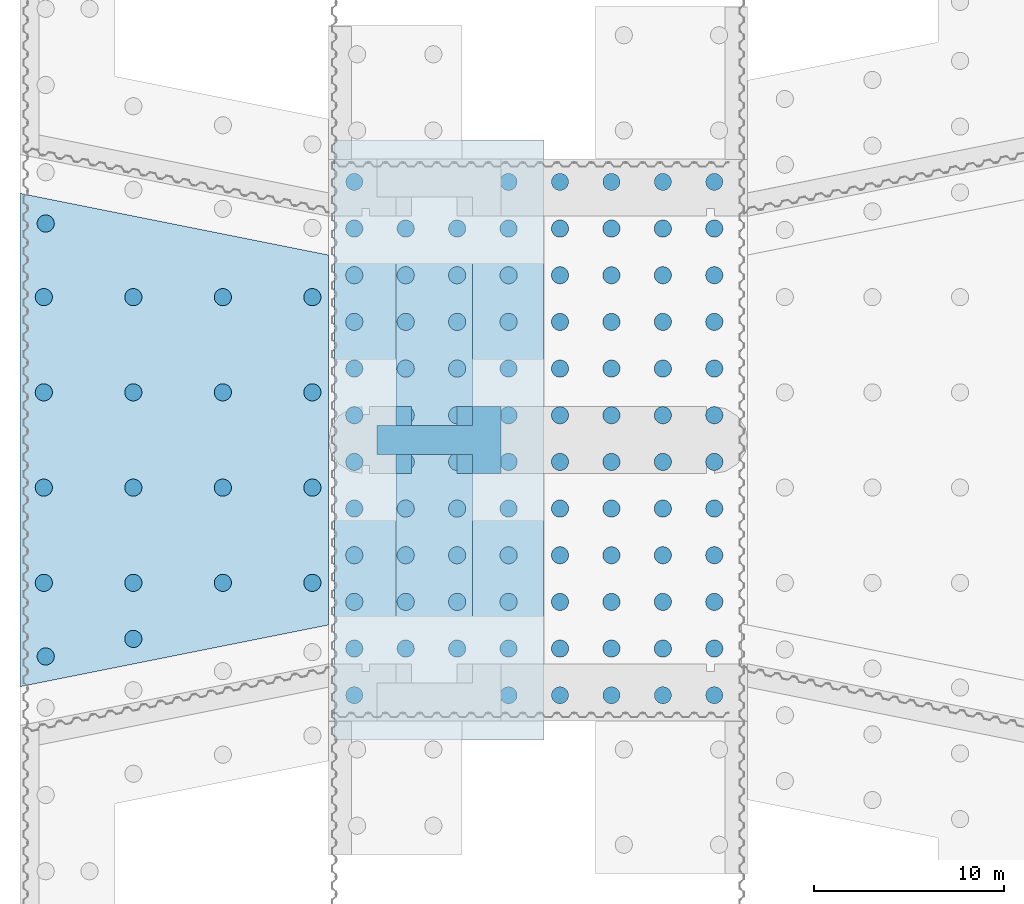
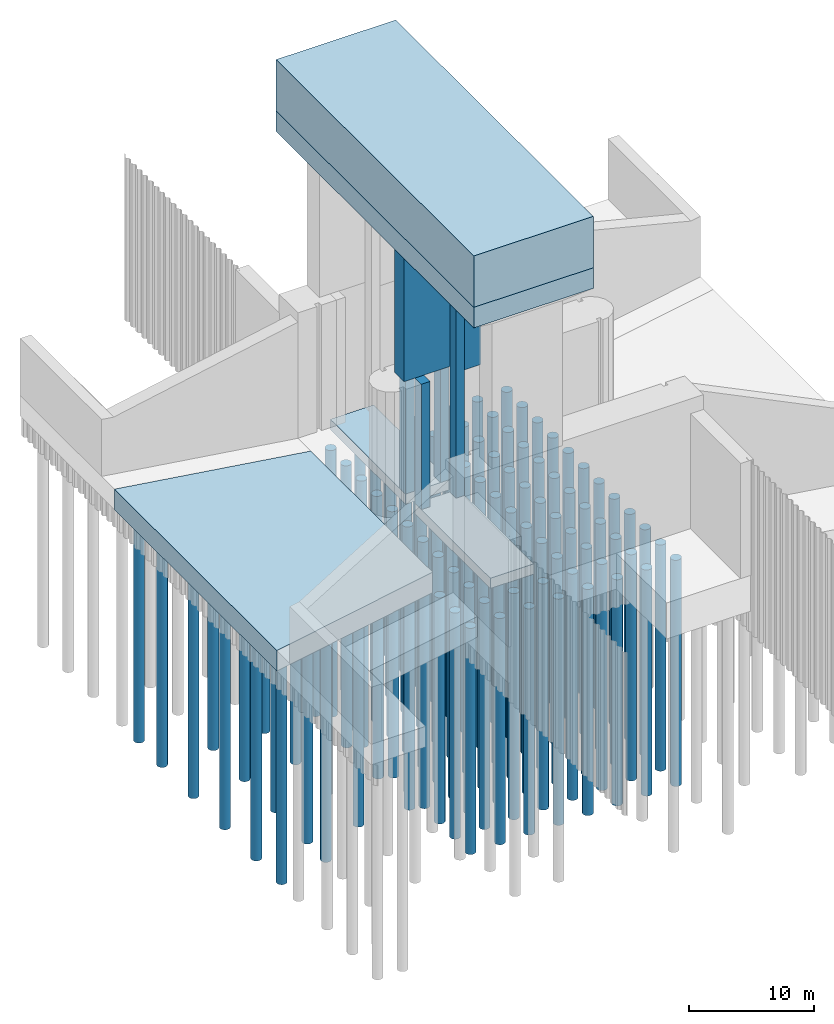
# One storey, part 3 of 9: 8 slabs.
"""IFC2X3 building model written with IfcOpenShell, lengths in millimetres."""

from ifc_helpers import new_model, entity, si_unit, converted_unit, derived_unit, direction, frame, frame_2d, origin, origin_2d_with_axis, place, context, subcontext, project, spatial, polyline, rectangle, circle, outline, extrude, material, type_object, element, save


model = new_model("IFC2X3")

# Units and contexts
model_context = context("Model", 3, precision=0.01, world=origin(), true_north=direction((6.12303176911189e-17, 1.0)))
body_context = subcontext(model_context, "Body", "Model", "MODEL_VIEW")
ifc_project = project(units=[si_unit("LENGTHUNIT", "METRE", prefix="MILLI"), si_unit("AREAUNIT", "SQUARE_METRE"), si_unit("VOLUMEUNIT", "CUBIC_METRE"), converted_unit("PLANEANGLEUNIT", "DEGREE", entity("IfcRatioMeasure", 0.0174532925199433), si_unit("PLANEANGLEUNIT", "RADIAN"), dimensions=[0, 0, 0, 0, 0, 0, 0]), si_unit("MASSUNIT", "GRAM", prefix="KILO"), derived_unit("MASSDENSITYUNIT", [(si_unit("MASSUNIT", "GRAM", prefix="KILO"), 1), (si_unit("LENGTHUNIT", "METRE"), -3)]), si_unit("TIMEUNIT", "SECOND"), si_unit("FREQUENCYUNIT", "HERTZ"), si_unit("THERMODYNAMICTEMPERATUREUNIT", "DEGREE_CELSIUS"), derived_unit("THERMALTRANSMITTANCEUNIT", [(si_unit("MASSUNIT", "GRAM", prefix="KILO"), 1), (si_unit("THERMODYNAMICTEMPERATUREUNIT", "KELVIN"), -1), (si_unit("TIMEUNIT", "SECOND"), -3)]), derived_unit("VOLUMETRICFLOWRATEUNIT", [(si_unit("LENGTHUNIT", "METRE"), 3), (si_unit("TIMEUNIT", "SECOND"), -1)]), si_unit("ELECTRICCURRENTUNIT", "AMPERE"), si_unit("ELECTRICVOLTAGEUNIT", "VOLT"), si_unit("POWERUNIT", "WATT"), si_unit("FORCEUNIT", "NEWTON", prefix="KILO"), si_unit("ILLUMINANCEUNIT", "LUX"), si_unit("LUMINOUSFLUXUNIT", "LUMEN"), si_unit("LUMINOUSINTENSITYUNIT", "CANDELA"), derived_unit("USERDEFINED", [(si_unit("MASSUNIT", "GRAM", prefix="KILO"), -1), (si_unit("LENGTHUNIT", "METRE"), -2), (si_unit("TIMEUNIT", "SECOND"), 3), (si_unit("LUMINOUSFLUXUNIT", "LUMEN"), 1)]), derived_unit("LINEARVELOCITYUNIT", [(si_unit("LENGTHUNIT", "METRE"), 1), (si_unit("TIMEUNIT", "SECOND"), -1)]), si_unit("PRESSUREUNIT", "PASCAL"), derived_unit("USERDEFINED", [(si_unit("LENGTHUNIT", "METRE"), -2), (si_unit("MASSUNIT", "GRAM", prefix="KILO"), 1), (si_unit("TIMEUNIT", "SECOND"), -2)])], contexts=[model_context])

# Site, building, storey
site_placement = place(None, origin())
site = spatial("IfcSite", under=ifc_project, at=site_placement, Name="Default", CompositionType="ELEMENT")
building_placement = place(site_placement, origin())
building = spatial("IfcBuilding", under=site, at=building_placement, CompositionType="ELEMENT")
storey_placement = place(building_placement, origin())
storey = spatial("IfcBuildingStorey", under=building, at=storey_placement, Name="設計GL", CompositionType="ELEMENT", Elevation=0.0)

# Slabs
ifc_material_1 = material(Name="コンクリート - 現場打ちコンクリート")
slab_type_1 = type_object("IfcSlabType", Name="40901_Co_川表翼壁_底版", PredefinedType="FLOOR", material=ifc_material_1)
slab_1_placement = place(storey_placement, origin())
element("IfcSlab", 1, at=slab_1_placement, inside=storey, type_object=slab_type_1, Name="40901_Co_川表翼壁_底版:40901_Co_川表翼壁_底版", ObjectType="40901_Co_川表翼壁_底版:40901_Co_川表翼壁_底版", PredefinedType="FLOOR", context=body_context, shape_type="SweptSolid", body=[
    extrude(outline(polyline([(-10482.4843388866, -11110.3636339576), (6038.33888520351, -11110.3636339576), (9847.0680610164, 7933.28224467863), (-5402.92260733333, 14287.4450232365), (-10482.4843388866, -11110.3636339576)])), frame((-61212.6693128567, -61542.3079312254, 2210.0), z_axis=(0.0, 0.0, 1.0), x_axis=(0.980580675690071, 0.196116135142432, 0.0)), (0.0, 0.0, 1.0), 2000.0),
])
slab_type_2 = type_object("IfcSlabType", Name="50001_2次Co_底版", PredefinedType="FLOOR", material=ifc_material_1)
slab_2_placement = place(storey_placement, origin())
element("IfcSlab", 2, at=slab_2_placement, inside=storey, type_object=slab_type_2, Name="50001_2次Co_底版:50001_2次Co_底版", ObjectType="50001_2次Co_底版:50001_2次Co_底版", PredefinedType="FLOOR", context=body_context, shape_type="SweptSolid", body=[
    extrude(rectangle(XDim=12000.0000000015, YDim=4000.00000000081, at=frame_2d((4.54747350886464e-12, 5.50016920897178e-10), x_axis=(1.0, 0.0))), frame((-47561.6198031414, -68292.1243992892, 3210.0), z_axis=(0.0, 0.0, 1.0), x_axis=(0.0, 1.0, 0.0)), (0.0, 0.0, 1.0), 1000.0),
    extrude(rectangle(XDim=12000.0000000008, YDim=4000.00000000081, at=frame_2d((-4.09272615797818e-12, -6.50288711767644e-11), x_axis=(1.0, 0.0))), frame((-47561.6198031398, -54792.1243992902, 3210.0), z_axis=(0.0, 0.0, 1.0), x_axis=(0.0, -1.0, 0.0)), (0.0, 0.0, 1.0), 1000.0),
])
slab_type_3 = type_object("IfcSlabType", Name="51201_2次Co_中央堰柱", PredefinedType="FLOOR", material=ifc_material_1)
slab_3_placement = place(storey_placement, origin())
element("IfcSlab", 3, at=slab_3_placement, inside=storey, type_object=slab_type_3, Name="51201_2次Co_中央堰柱:51201_2次Co_中央堰柱", ObjectType="51201_2次Co_中央堰柱:51201_2次Co_中央堰柱", PredefinedType="FLOOR", context=body_context, shape_type="SweptSolid", body=[
    extrude(rectangle(XDim=999.999999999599, YDim=800.0, at=frame_2d((-8.66862137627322e-12, 4.34852154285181e-12), x_axis=(1.0, 0.0))), frame((-49161.6198031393, -60292.1243992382, 4210.0), z_axis=(0.0, 0.0, 1.0), x_axis=(0.0, -1.0, 0.0)), (0.0, 0.0, 1.0), 12200.0),
    extrude(rectangle(XDim=999.999999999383, YDim=800.0, at=frame_2d((4.76632067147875e-11, -4.34852154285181e-12), x_axis=(1.0, 0.0))), frame((-49161.6198031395, -62792.1243992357, 4210.0), z_axis=(0.0, 0.0, 1.0), x_axis=(0.0, 1.0, 0.0)), (0.0, 0.0, 1.0), 12200.0),
    extrude(rectangle(XDim=999.999999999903, YDim=800.0, at=frame_2d((4.33146851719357e-11, -4.34852154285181e-12), x_axis=(1.0, 0.0))), frame((-45961.6198031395, -62792.1243992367, 4210.0), z_axis=(0.0, 0.0, 1.0), x_axis=(0.0, 1.0, 0.0)), (0.0, 0.0, 1.0), 25310.0),
    extrude(rectangle(XDim=1000.0000000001, YDim=800.0, at=frame_2d((-4.32009983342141e-12, 4.34852154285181e-12), x_axis=(1.0, 0.0))), frame((-45961.6198031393, -60292.1243992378, 4210.0), z_axis=(0.0, 0.0, 1.0), x_axis=(0.0, -1.0, 0.0)), (0.0, 0.0, 1.0), 25310.0),
])
slab_type_4 = type_object("IfcSlabType", Name="42301_Co_中央門柱", PredefinedType="FLOOR", material=ifc_material_1)
slab_4_placement = place(storey_placement, origin())
element("IfcSlab", 4, at=slab_4_placement, inside=storey, type_object=slab_type_4, Name="42301_Co_中央門柱:42301_Co_中央門柱", ObjectType="42301_Co_中央門柱:42301_Co_中央門柱", PredefinedType="FLOOR", context=body_context, shape_type="SweptSolid", body=[
    extrude(outline(polyline([(-1750.0, -875.0), (-1750.0, -2375.0), (1750.0, -2375.0), (1750.0, -875.0), (750.0, -875.0), (750.0, 4125.0), (-750.0, 4125.0), (-750.0, -875.0), (-1750.0, -875.0)])), frame((-46436.2636858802, -61542.3079314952, 16410.0), z_axis=(0.0, 0.0, -1.0), x_axis=(0.0, -1.0, 0.0)), (0.0, 0.0, -1.0), 14109.9999999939),
])
slab_type_5 = type_object("IfcSlabType", Name="42501_Co_操作台", PredefinedType="FLOOR", material=ifc_material_1)
slab_5_placement = place(storey_placement, origin())
element("IfcSlab", 5, at=slab_5_placement, inside=storey, type_object=slab_type_5, Name="42501_Co_操作台:42501_Co_操作台", ObjectType="42501_Co_操作台:42501_Co_操作台", PredefinedType="FLOOR", context=body_context, shape_type="SweptSolid", body=[
    extrude(rectangle(XDim=31500.0, YDim=11000.0, at=frame_2d((0.0, -4.09272615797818e-12), x_axis=(1.0, 0.0))), frame((-47311.2636880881, -61542.3079314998, 31520.0), z_axis=(0.0, 0.0, 1.0), x_axis=(0.0, 1.0, 0.0)), (0.0, 0.0, 1.0), 2000.00000000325),
])
ifc_material_2 = material(Name="ベタ基礎")
slab_type_6 = type_object("IfcSlabType", Name="70001.dwg", PredefinedType="FLOOR", material=ifc_material_2)
slab_6_placement = place(storey_placement, origin())
element("IfcSlab", 6, at=slab_6_placement, inside=storey, type_object=slab_type_6, Name="70001.dwg:70001.dwg", ObjectType="70001.dwg:70001.dwg", PredefinedType="FLOOR", context=body_context, shape_type="SweptSolid", body=[
    extrude(circle(Radius=450.0, at=origin_2d_with_axis()), frame((-51762.3131978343, -74942.4914632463, -21190.0)), (0.0, 0.0, 1.0), 22000.0),
    extrude(circle(Radius=450.0, at=origin_2d_with_axis()), frame((-49062.3131978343, -74942.4914632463, -21190.0)), (0.0, 0.0, 1.0), 22000.0),
    extrude(circle(Radius=450.0, at=origin_2d_with_axis()), frame((-46362.3131978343, -74942.4914632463, -21190.0)), (0.0, 0.0, 1.0), 22000.0),
    extrude(circle(Radius=450.0, at=origin_2d_with_axis()), frame((-43662.3131978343, -74942.4914632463, -21190.0)), (0.0, 0.0, 1.0), 22000.0),
    extrude(circle(Radius=450.0, at=origin_2d_with_axis()), frame((-40962.3131978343, -74942.4914632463, -21190.0)), (0.0, 0.0, 1.0), 22000.0),
    extrude(circle(Radius=450.0, at=origin_2d_with_axis()), frame((-38262.3131978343, -74942.4914632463, -21190.0)), (0.0, 0.0, 1.0), 22000.0),
    extrude(circle(Radius=450.0, at=origin_2d_with_axis()), frame((-35562.3131978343, -74942.4914632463, -21190.0)), (0.0, 0.0, 1.0), 22000.0),
    extrude(circle(Radius=450.0, at=origin_2d_with_axis()), frame((-32862.3131978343, -74942.4914632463, -21190.0)), (0.0, 0.0, 1.0), 22000.0),
    extrude(circle(Radius=450.0, at=origin_2d_with_axis()), frame((-51762.3131978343, -72492.4914632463, -21190.0)), (0.0, 0.0, 1.0), 22000.0),
    extrude(circle(Radius=450.0, at=origin_2d_with_axis()), frame((-49062.3131978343, -72492.4914632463, -21190.0)), (0.0, 0.0, 1.0), 22000.0),
    extrude(circle(Radius=450.0, at=origin_2d_with_axis()), frame((-46362.3131978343, -72492.4914632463, -21190.0)), (0.0, 0.0, 1.0), 22000.0),
    extrude(circle(Radius=450.0, at=origin_2d_with_axis()), frame((-43662.3131978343, -72492.4914632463, -21190.0)), (0.0, 0.0, 1.0), 22000.0),
    extrude(circle(Radius=450.0, at=origin_2d_with_axis()), frame((-40962.3131978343, -72492.4914632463, -21190.0)), (0.0, 0.0, 1.0), 22000.0),
    extrude(circle(Radius=450.0, at=origin_2d_with_axis()), frame((-38262.3131978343, -72492.4914632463, -21190.0)), (0.0, 0.0, 1.0), 22000.0),
    extrude(circle(Radius=450.0, at=origin_2d_with_axis()), frame((-35562.3131978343, -72492.4914632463, -21190.0)), (0.0, 0.0, 1.0), 22000.0),
    extrude(circle(Radius=450.0, at=origin_2d_with_axis()), frame((-32862.3131978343, -72492.4914632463, -21190.0)), (0.0, 0.0, 1.0), 22000.0),
    extrude(circle(Radius=450.0, at=origin_2d_with_axis()), frame((-51762.3131978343, -70042.4914632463, -21190.0)), (0.0, 0.0, 1.0), 22000.0),
    extrude(circle(Radius=450.0, at=origin_2d_with_axis()), frame((-49062.3131978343, -70042.4914632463, -21190.0)), (0.0, 0.0, 1.0), 22000.0),
    extrude(circle(Radius=450.0, at=origin_2d_with_axis()), frame((-46362.3131978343, -70042.4914632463, -21190.0)), (0.0, 0.0, 1.0), 22000.0),
    extrude(circle(Radius=450.0, at=origin_2d_with_axis()), frame((-43662.3131978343, -70042.4914632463, -21190.0)), (0.0, 0.0, 1.0), 22000.0),
    extrude(circle(Radius=450.0, at=origin_2d_with_axis()), frame((-40962.3131978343, -70042.4914632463, -21190.0)), (0.0, 0.0, 1.0), 22000.0),
    extrude(circle(Radius=450.0, at=origin_2d_with_axis()), frame((-38262.3131978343, -70042.4914632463, -21190.0)), (0.0, 0.0, 1.0), 22000.0),
    extrude(circle(Radius=450.0, at=origin_2d_with_axis()), frame((-35562.3131978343, -70042.4914632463, -21190.0)), (0.0, 0.0, 1.0), 22000.0),
    extrude(circle(Radius=450.0, at=origin_2d_with_axis()), frame((-32862.3131978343, -70042.4914632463, -21190.0)), (0.0, 0.0, 1.0), 22000.0),
    extrude(circle(Radius=450.0, at=origin_2d_with_axis()), frame((-51762.3131978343, -67592.4914632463, -21190.0)), (0.0, 0.0, 1.0), 22000.0),
    extrude(circle(Radius=450.0, at=origin_2d_with_axis()), frame((-49062.3131978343, -67592.4914632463, -21190.0)), (0.0, 0.0, 1.0), 22000.0),
    extrude(circle(Radius=450.0, at=origin_2d_with_axis()), frame((-46362.3131978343, -67592.4914632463, -21190.0)), (0.0, 0.0, 1.0), 22000.0),
    extrude(circle(Radius=450.0, at=origin_2d_with_axis()), frame((-43662.3131978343, -67592.4914632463, -21190.0)), (0.0, 0.0, 1.0), 22000.0),
    extrude(circle(Radius=450.0, at=origin_2d_with_axis()), frame((-40962.3131978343, -67592.4914632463, -21190.0)), (0.0, 0.0, 1.0), 22000.0),
    extrude(circle(Radius=450.0, at=origin_2d_with_axis()), frame((-38262.3131978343, -67592.4914632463, -21190.0)), (0.0, 0.0, 1.0), 22000.0),
    extrude(circle(Radius=450.0, at=origin_2d_with_axis()), frame((-35562.3131978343, -67592.4914632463, -21190.0)), (0.0, 0.0, 1.0), 22000.0),
    extrude(circle(Radius=450.0, at=origin_2d_with_axis()), frame((-32862.3131978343, -67592.4914632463, -21190.0)), (0.0, 0.0, 1.0), 22000.0),
    extrude(circle(Radius=450.0, at=origin_2d_with_axis()), frame((-51762.3131978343, -65142.4914632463, -21190.0)), (0.0, 0.0, 1.0), 22000.0),
    extrude(circle(Radius=450.0, at=origin_2d_with_axis()), frame((-49062.3131978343, -65142.4914632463, -21190.0)), (0.0, 0.0, 1.0), 22000.0),
    extrude(circle(Radius=450.0, at=origin_2d_with_axis()), frame((-46362.3131978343, -65142.4914632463, -21190.0)), (0.0, 0.0, 1.0), 22000.0),
    extrude(circle(Radius=450.0, at=origin_2d_with_axis()), frame((-43662.3131978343, -65142.4914632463, -21190.0)), (0.0, 0.0, 1.0), 22000.0),
    extrude(circle(Radius=450.0, at=origin_2d_with_axis()), frame((-40962.3131978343, -65142.4914632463, -21190.0)), (0.0, 0.0, 1.0), 22000.0),
    extrude(circle(Radius=450.0, at=origin_2d_with_axis()), frame((-38262.3131978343, -65142.4914632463, -21190.0)), (0.0, 0.0, 1.0), 22000.0),
    extrude(circle(Radius=450.0, at=origin_2d_with_axis()), frame((-35562.3131978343, -65142.4914632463, -21190.0)), (0.0, 0.0, 1.0), 22000.0),
    extrude(circle(Radius=450.0, at=origin_2d_with_axis()), frame((-32862.3131978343, -65142.4914632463, -21190.0)), (0.0, 0.0, 1.0), 22000.0),
    extrude(circle(Radius=450.0, at=origin_2d_with_axis()), frame((-51762.3131978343, -62692.4914632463, -21190.0)), (0.0, 0.0, 1.0), 22000.0),
    extrude(circle(Radius=450.0, at=origin_2d_with_axis()), frame((-49062.3131978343, -62692.4914632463, -21190.0)), (0.0, 0.0, 1.0), 22000.0),
    extrude(circle(Radius=450.0, at=origin_2d_with_axis()), frame((-46362.3131978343, -62692.4914632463, -21190.0)), (0.0, 0.0, 1.0), 22000.0),
    extrude(circle(Radius=450.0, at=origin_2d_with_axis()), frame((-43662.3131978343, -62692.4914632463, -21190.0)), (0.0, 0.0, 1.0), 22000.0),
    extrude(circle(Radius=450.0, at=origin_2d_with_axis()), frame((-40962.3131978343, -62692.4914632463, -21190.0)), (0.0, 0.0, 1.0), 22000.0),
    extrude(circle(Radius=450.0, at=origin_2d_with_axis()), frame((-38262.3131978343, -62692.4914632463, -21190.0)), (0.0, 0.0, 1.0), 22000.0),
    extrude(circle(Radius=450.0, at=origin_2d_with_axis()), frame((-35562.3131978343, -62692.4914632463, -21190.0)), (0.0, 0.0, 1.0), 22000.0),
    extrude(circle(Radius=450.0, at=origin_2d_with_axis()), frame((-32862.3131978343, -62692.4914632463, -21190.0)), (0.0, 0.0, 1.0), 22000.0),
    extrude(circle(Radius=450.0, at=origin_2d_with_axis()), frame((-51762.3131978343, -60242.4914632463, -21190.0)), (0.0, 0.0, 1.0), 22000.0),
    extrude(circle(Radius=450.0, at=origin_2d_with_axis()), frame((-49062.3131978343, -60242.4914632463, -21190.0)), (0.0, 0.0, 1.0), 22000.0),
    extrude(circle(Radius=450.0, at=origin_2d_with_axis()), frame((-46362.3131978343, -60242.4914632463, -21190.0)), (0.0, 0.0, 1.0), 22000.0),
    extrude(circle(Radius=450.0, at=origin_2d_with_axis()), frame((-43662.3131978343, -60242.4914632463, -21190.0)), (0.0, 0.0, 1.0), 22000.0),
    extrude(circle(Radius=450.0, at=origin_2d_with_axis()), frame((-40962.3131978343, -60242.4914632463, -21190.0)), (0.0, 0.0, 1.0), 22000.0),
    extrude(circle(Radius=450.0, at=origin_2d_with_axis()), frame((-38262.3131978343, -60242.4914632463, -21190.0)), (0.0, 0.0, 1.0), 22000.0),
    extrude(circle(Radius=450.0, at=origin_2d_with_axis()), frame((-35562.3131978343, -60242.4914632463, -21190.0)), (0.0, 0.0, 1.0), 22000.0),
    extrude(circle(Radius=450.0, at=origin_2d_with_axis()), frame((-32862.3131978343, -60242.4914632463, -21190.0)), (0.0, 0.0, 1.0), 22000.0),
    extrude(circle(Radius=450.0, at=origin_2d_with_axis()), frame((-51762.3131978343, -57792.4914632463, -21190.0)), (0.0, 0.0, 1.0), 22000.0),
    extrude(circle(Radius=450.0, at=origin_2d_with_axis()), frame((-49062.3131978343, -57792.4914632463, -21190.0)), (0.0, 0.0, 1.0), 22000.0),
    extrude(circle(Radius=450.0, at=origin_2d_with_axis()), frame((-46362.3131978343, -57792.4914632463, -21190.0)), (0.0, 0.0, 1.0), 22000.0),
    extrude(circle(Radius=450.0, at=origin_2d_with_axis()), frame((-43662.3131978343, -57792.4914632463, -21190.0)), (0.0, 0.0, 1.0), 22000.0),
    extrude(circle(Radius=450.0, at=origin_2d_with_axis()), frame((-40962.3131978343, -57792.4914632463, -21190.0)), (0.0, 0.0, 1.0), 22000.0),
    extrude(circle(Radius=450.0, at=origin_2d_with_axis()), frame((-38262.3131978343, -57792.4914632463, -21190.0)), (0.0, 0.0, 1.0), 22000.0),
    extrude(circle(Radius=450.0, at=origin_2d_with_axis()), frame((-35562.3131978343, -57792.4914632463, -21190.0)), (0.0, 0.0, 1.0), 22000.0),
    extrude(circle(Radius=450.0, at=origin_2d_with_axis()), frame((-32862.3131978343, -57792.4914632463, -21190.0)), (0.0, 0.0, 1.0), 22000.0),
    extrude(circle(Radius=450.0, at=origin_2d_with_axis()), frame((-51762.3131978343, -55342.4914632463, -21190.0)), (0.0, 0.0, 1.0), 22000.0),
    extrude(circle(Radius=450.0, at=origin_2d_with_axis()), frame((-49062.3131978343, -55342.4914632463, -21190.0)), (0.0, 0.0, 1.0), 22000.0),
    extrude(circle(Radius=450.0, at=origin_2d_with_axis()), frame((-46362.3131978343, -55342.4914632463, -21190.0)), (0.0, 0.0, 1.0), 22000.0),
    extrude(circle(Radius=450.0, at=origin_2d_with_axis()), frame((-43662.3131978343, -55342.4914632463, -21190.0)), (0.0, 0.0, 1.0), 22000.0),
    extrude(circle(Radius=450.0, at=origin_2d_with_axis()), frame((-40962.3131978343, -55342.4914632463, -21190.0)), (0.0, 0.0, 1.0), 22000.0),
    extrude(circle(Radius=450.0, at=origin_2d_with_axis()), frame((-38262.3131978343, -55342.4914632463, -21190.0)), (0.0, 0.0, 1.0), 22000.0),
    extrude(circle(Radius=450.0, at=origin_2d_with_axis()), frame((-35562.3131978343, -55342.4914632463, -21190.0)), (0.0, 0.0, 1.0), 22000.0),
    extrude(circle(Radius=450.0, at=origin_2d_with_axis()), frame((-32862.3131978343, -55342.4914632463, -21190.0)), (0.0, 0.0, 1.0), 22000.0),
    extrude(circle(Radius=450.0, at=origin_2d_with_axis()), frame((-51762.3131978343, -52892.4914632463, -21190.0)), (0.0, 0.0, 1.0), 22000.0),
    extrude(circle(Radius=450.0, at=origin_2d_with_axis()), frame((-49062.3131978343, -52892.4914632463, -21190.0)), (0.0, 0.0, 1.0), 22000.0),
    extrude(circle(Radius=450.0, at=origin_2d_with_axis()), frame((-46362.3131978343, -52892.4914632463, -21190.0)), (0.0, 0.0, 1.0), 22000.0),
    extrude(circle(Radius=450.0, at=origin_2d_with_axis()), frame((-43662.3131978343, -52892.4914632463, -21190.0)), (0.0, 0.0, 1.0), 22000.0),
    extrude(circle(Radius=450.0, at=origin_2d_with_axis()), frame((-40962.3131978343, -52892.4914632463, -21190.0)), (0.0, 0.0, 1.0), 22000.0),
    extrude(circle(Radius=450.0, at=origin_2d_with_axis()), frame((-38262.3131978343, -52892.4914632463, -21190.0)), (0.0, 0.0, 1.0), 22000.0),
    extrude(circle(Radius=450.0, at=origin_2d_with_axis()), frame((-35562.3131978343, -52892.4914632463, -21190.0)), (0.0, 0.0, 1.0), 22000.0),
    extrude(circle(Radius=450.0, at=origin_2d_with_axis()), frame((-32862.3131978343, -52892.4914632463, -21190.0)), (0.0, 0.0, 1.0), 22000.0),
    extrude(circle(Radius=450.0, at=origin_2d_with_axis()), frame((-51762.3131978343, -47992.4914632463, -21190.0)), (0.0, 0.0, 1.0), 22000.0),
    extrude(circle(Radius=450.0, at=origin_2d_with_axis()), frame((-49062.3131978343, -47992.4914632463, -21190.0)), (0.0, 0.0, 1.0), 22000.0),
    extrude(circle(Radius=450.0, at=origin_2d_with_axis()), frame((-46362.3131978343, -47992.4914632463, -21190.0)), (0.0, 0.0, 1.0), 22000.0),
    extrude(circle(Radius=450.0, at=origin_2d_with_axis()), frame((-43662.3131978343, -47992.4914632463, -21190.0)), (0.0, 0.0, 1.0), 22000.0),
    extrude(circle(Radius=450.0, at=origin_2d_with_axis()), frame((-40962.3131978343, -47992.4914632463, -21190.0)), (0.0, 0.0, 1.0), 22000.0),
    extrude(circle(Radius=450.0, at=origin_2d_with_axis()), frame((-38262.3131978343, -47992.4914632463, -21190.0)), (0.0, 0.0, 1.0), 22000.0),
    extrude(circle(Radius=450.0, at=origin_2d_with_axis()), frame((-35562.3131978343, -47992.4914632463, -21190.0)), (0.0, 0.0, 1.0), 22000.0),
    extrude(circle(Radius=450.0, at=origin_2d_with_axis()), frame((-32862.3131978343, -47992.4914632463, -21190.0)), (0.0, 0.0, 1.0), 22000.0),
    extrude(circle(Radius=450.0, at=origin_2d_with_axis()), frame((-51762.3131978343, -50442.4914632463, -21190.0)), (0.0, 0.0, 1.0), 22000.0),
    extrude(circle(Radius=450.0, at=origin_2d_with_axis()), frame((-49062.3131978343, -50442.4914632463, -21190.0)), (0.0, 0.0, 1.0), 22000.0),
    extrude(circle(Radius=450.0, at=origin_2d_with_axis()), frame((-46362.3131978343, -50442.4914632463, -21190.0)), (0.0, 0.0, 1.0), 22000.0),
    extrude(circle(Radius=450.0, at=origin_2d_with_axis()), frame((-43662.3131978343, -50442.4914632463, -21190.0)), (0.0, 0.0, 1.0), 22000.0),
    extrude(circle(Radius=450.0, at=origin_2d_with_axis()), frame((-40962.3131978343, -50442.4914632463, -21190.0)), (0.0, 0.0, 1.0), 22000.0),
    extrude(circle(Radius=450.0, at=origin_2d_with_axis()), frame((-38262.3131978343, -50442.4914632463, -21190.0)), (0.0, 0.0, 1.0), 22000.0),
    extrude(circle(Radius=450.0, at=origin_2d_with_axis()), frame((-35562.3131978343, -50442.4914632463, -21190.0)), (0.0, 0.0, 1.0), 22000.0),
    extrude(circle(Radius=450.0, at=origin_2d_with_axis()), frame((-32862.3131978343, -50442.4914632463, -21190.0)), (0.0, 0.0, 1.0), 22000.0),
])
slab_type_7 = type_object("IfcSlabType", Name="70901.dwg", PredefinedType="FLOOR", material=ifc_material_2)
slab_7_placement = place(storey_placement, origin())
element("IfcSlab", 7, at=slab_7_placement, inside=storey, type_object=slab_type_7, Name="70901.dwg:70901.dwg", ObjectType="70901.dwg:70901.dwg", PredefinedType="FLOOR", context=body_context, shape_type="SweptSolid", body=[
    extrude(circle(Radius=449.999999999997, at=origin_2d_with_axis()), frame((-67962.785993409, -72906.055483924, -19690.0)), (0.0, 0.0, 1.0), 21900.0),
    extrude(circle(Radius=449.999999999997, at=origin_2d_with_axis()), frame((-68062.66931298, -69042.2993484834, -19690.0)), (0.0, 0.0, 1.0), 21900.0),
    extrude(circle(Radius=450.0, at=origin_2d_with_axis()), frame((-58662.6693129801, -69042.2993484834, -19690.0)), (0.0, 0.0, 1.0), 21900.0),
    extrude(circle(Radius=450.0, at=origin_2d_with_axis()), frame((-63362.6693129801, -69042.2993484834, -19690.0)), (0.0, 0.0, 1.0), 21900.0),
    extrude(circle(Radius=449.999999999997, at=origin_2d_with_axis()), frame((-63362.5862436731, -71986.0155339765, -19690.0)), (0.0, 0.0, 1.0), 21900.0),
    extrude(circle(Radius=449.999999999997, at=origin_2d_with_axis()), frame((-53962.66931298, -69042.2993484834, -19690.0)), (0.0, 0.0, 1.0), 21900.0),
    extrude(circle(Radius=449.999999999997, at=origin_2d_with_axis()), frame((-68062.66931298, -64042.2993484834, -19690.0)), (0.0, 0.0, 1.0), 21900.0),
    extrude(circle(Radius=449.999999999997, at=origin_2d_with_axis()), frame((-63362.66931298, -64042.2993484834, -19690.0)), (0.0, 0.0, 1.0), 21900.0),
    extrude(circle(Radius=449.999999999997, at=origin_2d_with_axis()), frame((-58662.66931298, -64042.2993484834, -19690.0)), (0.0, 0.0, 1.0), 21900.0),
    extrude(circle(Radius=449.999999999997, at=origin_2d_with_axis()), frame((-53962.66931298, -64042.2993484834, -19690.0)), (0.0, 0.0, 1.0), 21900.0),
    extrude(circle(Radius=449.999999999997, at=origin_2d_with_axis()), frame((-53962.66931298, -59042.2993484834, -19690.0)), (0.0, 0.0, 1.0), 21900.0),
    extrude(circle(Radius=449.999999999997, at=origin_2d_with_axis()), frame((-58662.66931298, -59042.2993484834, -19690.0)), (0.0, 0.0, 1.0), 21900.0),
    extrude(circle(Radius=449.999999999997, at=origin_2d_with_axis()), frame((-63362.66931298, -59042.2993484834, -19690.0)), (0.0, 0.0, 1.0), 21900.0),
    extrude(circle(Radius=449.999999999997, at=origin_2d_with_axis()), frame((-68062.66931298, -59042.2993484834, -19690.0)), (0.0, 0.0, 1.0), 21900.0),
    extrude(circle(Radius=449.999999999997, at=origin_2d_with_axis()), frame((-68062.66931298, -54042.2993484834, -19690.0)), (0.0, 0.0, 1.0), 21900.0),
    extrude(circle(Radius=449.999999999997, at=origin_2d_with_axis()), frame((-63362.66931298, -54042.2993484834, -19690.0)), (0.0, 0.0, 1.0), 21900.0),
    extrude(circle(Radius=449.999999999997, at=origin_2d_with_axis()), frame((-58662.66931298, -54042.2993484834, -19690.0)), (0.0, 0.0, 1.0), 21900.0),
    extrude(circle(Radius=449.999999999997, at=origin_2d_with_axis()), frame((-53962.66931298, -54042.2993484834, -19690.0)), (0.0, 0.0, 1.0), 21900.0),
    extrude(circle(Radius=449.999999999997, at=origin_2d_with_axis()), frame((-67962.78599347, -50178.5603785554, -19690.0)), (0.0, 0.0, 1.0), 21900.0),
])
slab_type_8 = type_object("IfcSlabType", Name="60601_操作室", PredefinedType="FLOOR", material=ifc_material_1)
slab_8_placement = place(storey_placement, origin())
element("IfcSlab", 8, at=slab_8_placement, inside=storey, type_object=slab_type_8, Name="60601_操作室:60601_操作室", ObjectType="60601_操作室:60601_操作室", PredefinedType="FLOOR", context=body_context, shape_type="SweptSolid", body=[
    extrude(rectangle(XDim=31500.0, YDim=11000.0, at=frame_2d((4.54747350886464e-12, -4.09272615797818e-12), x_axis=(1.0, 0.0))), frame((-47311.2636880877, -61542.3079314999, 33520.0), z_axis=(0.0, 0.0, 1.0), x_axis=(0.0, 1.0, 0.0)), (0.0, 0.0, 1.0), 4999.99999999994),
])

save(model, "model.ifc")
